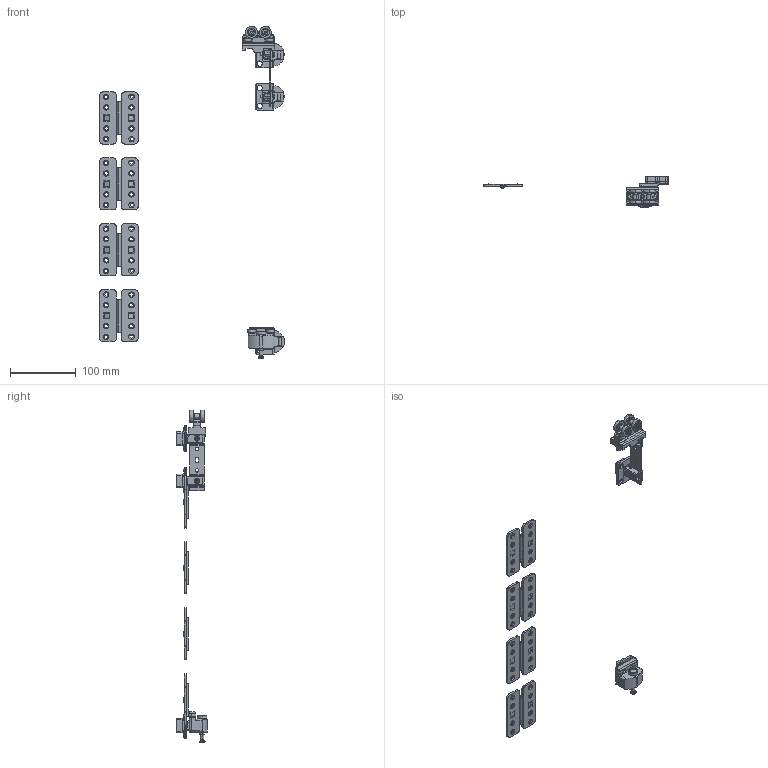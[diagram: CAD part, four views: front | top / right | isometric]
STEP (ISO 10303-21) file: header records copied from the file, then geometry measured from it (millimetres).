
FILE_DESCRIPTION( ( '' ), '1' );
FILE_NAME( 'D:/temp/hettich_stp/hettich/4_folding_sliding/4.4_folding_door/25kg_wl_220-wl_77/wl_77_right/70984.stp', '2013-02-26T10:22:12', ( '' ), ( '' ), ' ', ' ', ' ' );
FILE_SCHEMA( ( 'automotive_design' ) );
Length unit declared in the file: millimetre
Products named in the file (15): 1; 2; 3; 4; 5; 6; 7; 8; 9; 10; 11; 12; 13; 14; 15
Bounding box: 280.51 x 46.6 x 503.78 mm (x, y, z)
Volume: 111466.9 mm3; surface area: 112485.7 mm2
Topology: 15 solids, 15 shells, 1978 faces, 5672 edges, 3687 vertices
Faces by surface type: plane 1143, cylinder 673, torus 100, cone 62
Entity records: 128621 total; most frequent: CARTESIAN_POINT 11828, DIRECTION 11434, STYLED_ITEM 11348, PRESENTATION_STYLE_ASSIGNMENT 11348, COLOUR_RGB 11348, ORIENTED_EDGE 11336, EDGE_CURVE 5668, CURVE_STYLE 5668
